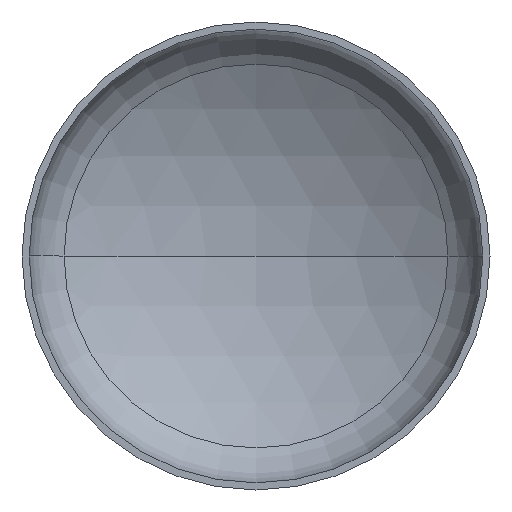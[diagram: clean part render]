
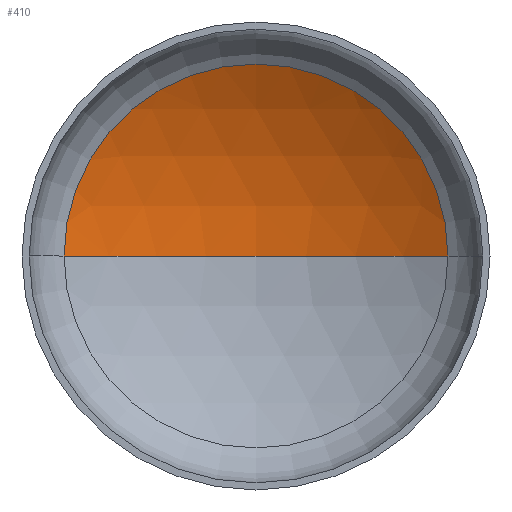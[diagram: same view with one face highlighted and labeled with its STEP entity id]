
A CAD part, front view. The second image highlights one B-rep face of the part: STEP entity #410.
In plain terms, the highlighted spherical face has radius 1360 mm.
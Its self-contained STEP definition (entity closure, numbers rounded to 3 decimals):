
#24 = DIRECTION ( 'NONE',  ( 1., 0., 0. ) ) ;
#30 = VERTEX_POINT ( 'NONE', #227 ) ;
#38 = AXIS2_PLACEMENT_3D ( 'NONE', #110, #382, #24 ) ;
#40 = ORIENTED_EDGE ( 'NONE', *, *, #91, .F. ) ;
#41 = AXIS2_PLACEMENT_3D ( 'NONE', #165, #147, #338 ) ;
#47 = AXIS2_PLACEMENT_3D ( 'NONE', #181, #177, #180 ) ;
#60 = EDGE_LOOP ( 'NONE', ( #40, #123, #320 ) ) ;
#87 = EDGE_CURVE ( 'NONE', #30, #373, #324, .T. ) ;
#88 = EDGE_CURVE ( 'NONE', #179, #30, #253, .T. ) ;
#91 = EDGE_CURVE ( 'NONE', #179, #373, #109, .T. ) ;
#109 = CIRCLE ( 'NONE', #38, 1360. ) ;
#110 = CARTESIAN_POINT ( 'NONE',  ( 0., -859.407, 0. ) ) ;
#123 = ORIENTED_EDGE ( 'NONE', *, *, #88, .T. ) ;
#147 = DIRECTION ( 'NONE',  ( 0., 0., -1. ) ) ;
#162 = CARTESIAN_POINT ( 'NONE',  ( 0., 500.593, 0. ) ) ;
#165 = CARTESIAN_POINT ( 'NONE',  ( 0., -859.407, 0. ) ) ;
#173 = DIRECTION ( 'NONE',  ( -1., 0., 0. ) ) ;
#177 = DIRECTION ( 'NONE',  ( 0., -1., 0. ) ) ;
#179 = VERTEX_POINT ( 'NONE', #162 ) ;
#180 = DIRECTION ( 'NONE',  ( 1., 0., 0. ) ) ;
#181 = CARTESIAN_POINT ( 'NONE',  ( 0., 308.223, 0. ) ) ;
#227 = CARTESIAN_POINT ( 'NONE',  ( 697.309, 308.223, 0. ) ) ;
#237 = DIRECTION ( 'NONE',  ( 0., 0., -1. ) ) ;
#253 = CIRCLE ( 'NONE', #41, 1360. ) ;
#312 = CARTESIAN_POINT ( 'NONE',  ( -697.309, 308.223, 0. ) ) ;
#319 = SPHERICAL_SURFACE ( 'NONE', #336, 1360. ) ;
#320 = ORIENTED_EDGE ( 'NONE', *, *, #87, .T. ) ;
#324 = CIRCLE ( 'NONE', #47, 697.309 ) ;
#336 = AXIS2_PLACEMENT_3D ( 'NONE', #343, #237, #173 ) ;
#338 = DIRECTION ( 'NONE',  ( -1., 0., 0. ) ) ;
#343 = CARTESIAN_POINT ( 'NONE',  ( 0., -859.407, 0. ) ) ;
#373 = VERTEX_POINT ( 'NONE', #312 ) ;
#382 = DIRECTION ( 'NONE',  ( 0., 0., 1. ) ) ;
#391 = FACE_OUTER_BOUND ( 'NONE', #60, .T. ) ;
#410 = ADVANCED_FACE ( 'NONE', ( #391 ), #319, .F. ) ;
